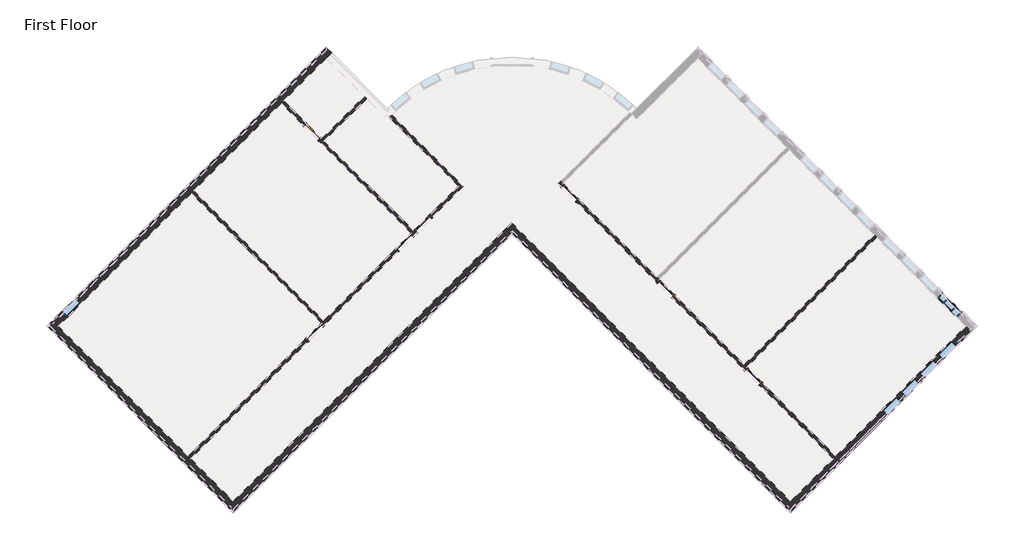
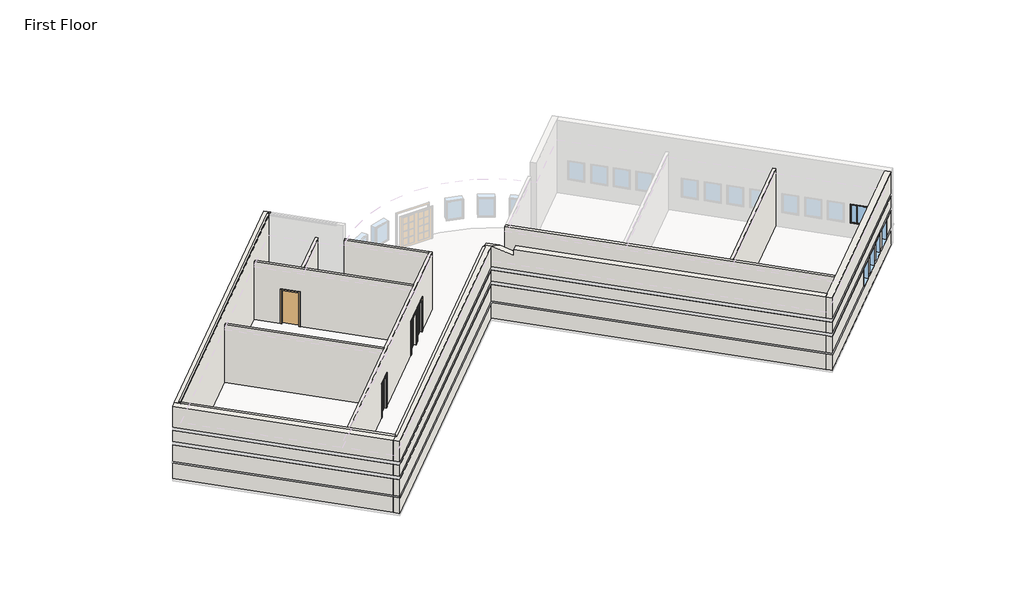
# One storey, part 1 of 3: 12 walls, 7 doors, 7 windows.
"""IFC4 building model written with IfcOpenShell, lengths in millimetres."""

from ifc_helpers import new_model, si_unit, point, frame_2d, origin, origin_with_axes, place, context, project, spatial, polyline, circle_curve, trimmed, segment, composite_curve, outline, extrude, faceted_brep, transform, mapped, element, save
from components import door_f9494b7c, door_b81abb0e, door_5f5b55da, window_15c49d37, window_0e2fc6ce

model = new_model("IFC4")

# Units and contexts
model_context = context("Model", 3, world=origin())
ifc_project = project(units=[si_unit("LENGTHUNIT", "METRE", prefix="MILLI")], contexts=[model_context])

# Site, building, storey
site = spatial("IfcSite", under=ifc_project)
building = spatial("IfcBuilding", under=site)
storey = spatial("IfcBuildingStorey", under=building, Name="First Floor", Elevation=0.0)

# Doors
placement = place(None, origin())
door_shape = door_f9494b7c(model_context)
element("IfcDoor", 1, ObjectType="Single-Flush : 36\" x 84\"", at=placement, inside=storey, context=model_context, shape_type="MappedRepresentation", body=[
    mapped(door_shape, transform((-12710.6349126, 7029.9464017, 0.0), x_axis=(0.7071067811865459, -0.7071067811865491, 0.0), y_axis=(0.7071067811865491, 0.7071067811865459, 0.0), z_axis=(0.0, 0.0, 1.0))),
])
door_2_shape = door_b81abb0e(model_context)
element("IfcDoor", 2, ObjectType="Single-Glass 1 : 36\" x 84\"", at=placement, inside=storey, context=model_context, shape_type="MappedRepresentation", body=[
    mapped(door_2_shape, transform((-12602.8718391, -2278.0890678, 0.0), x_axis=(0.707106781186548, 0.707106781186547, 0.0), y_axis=(-0.707106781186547, 0.707106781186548, 0.0), z_axis=(0.0, 0.0, 1.0))),
])
element("IfcDoor", 3, ObjectType="Single-Glass 1 : 36\" x 84\"", at=placement, inside=storey, context=model_context, shape_type="MappedRepresentation", body=[
    mapped(door_2_shape, transform((-8433.7879349, 1890.9948364, 0.0), x_axis=(0.707106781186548, 0.707106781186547, 0.0), y_axis=(-0.707106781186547, 0.707106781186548, 0.0), z_axis=(0.0, 0.0, 1.0))),
])
door_3_shape = door_5f5b55da(model_context)
element("IfcDoor", 4, ObjectType="Single-Glass 1 : 36\" x 84\"", at=placement, inside=storey, context=model_context, shape_type="MappedRepresentation", body=[
    mapped(door_3_shape, transform((-7571.6833473, 2753.0994241, 0.0), x_axis=(-0.707106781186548, -0.707106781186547, 0.0), y_axis=(0.707106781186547, -0.707106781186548, 0.0), z_axis=(0.0, 0.0, 1.0))),
])
element("IfcDoor", 5, ObjectType="Single-Glass 1 : 36\" x 84\"", at=placement, inside=storey, context=model_context, shape_type="MappedRepresentation", body=[
    mapped(door_3_shape, transform((-756.7914834, 4195.5530635, 0.0), x_axis=(-0.7071067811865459, 0.7071067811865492, 0.0), y_axis=(-0.7071067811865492, -0.7071067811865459, 0.0), z_axis=(0.0, 0.0, 1.0))),
])
element("IfcDoor", 6, ObjectType="Single-Glass 1 : 36\" x 84\"", at=placement, inside=storey, context=model_context, shape_type="MappedRepresentation", body=[
    mapped(door_3_shape, transform((3703.0282127, -264.2666326, 0.0), x_axis=(-0.7071067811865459, 0.7071067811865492, 0.0), y_axis=(-0.7071067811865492, -0.7071067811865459, 0.0), z_axis=(0.0, 0.0, 1.0))),
])
element("IfcDoor", 7, ObjectType="Single-Glass 1 : 36\" x 84\"", at=placement, inside=storey, context=model_context, shape_type="MappedRepresentation", body=[
    mapped(door_3_shape, transform((7764.3490435, -4325.5874634, 0.0), x_axis=(-0.7071067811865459, 0.7071067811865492, 0.0), y_axis=(-0.7071067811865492, -0.7071067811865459, 0.0), z_axis=(0.0, 0.0, 1.0))),
])

# Walls
element("IfcWall", 8, ObjectType="Exterior - Split Face and CMU on Mtl. Stud", at=placement, inside=storey, context=model_context, shape_type="Brep", body=[
    faceted_brep([(17611.1998802, -1988.4758079, 0.0), (11574.2227029, -8025.4529853, 0.0), (11464.2145654, -8135.4611227, 0.0), (9488.5582187, -10111.1174694, 0.0), (9239.3561114, -10360.3195767, 0.0), (9239.3561114, -10360.3195767, 1016.0), (9304.4629682, -10295.2127199, 1016.0), (9304.4629682, -10295.2127199, 1085.85), (9239.3561114, -10360.3195767, 1085.85), (9239.3561114, -10360.3195767, 2133.6), (9304.4629682, -10295.2127199, 2133.6), (9304.4629682, -10295.2127199, 2336.8), (9239.3561114, -10360.3195767, 2336.8), (9239.3561114, -10360.3195767, 3048.0), (9304.4629682, -10295.2127199, 3048.0), (9304.4629682, -10295.2127199, 3251.2), (9239.3561114, -10360.3195767, 3251.2), (9239.3561114, -10360.3195767, 4572.0), (9488.5582187, -10111.1174694, 4572.0), (17611.1998802, -1988.4758079, 4572.0), (16301.2050186, -3298.4706695, 2133.6), (16301.2050186, -3298.4706695, 914.4), (16947.7834593, -2651.8922288, 914.4), (16947.7834593, -2651.8922288, 2133.6), (15439.100431, -4160.5752571, 2133.6), (15439.100431, -4160.5752571, 914.4), (16085.6788717, -3513.9968164, 914.4), (16085.6788717, -3513.9968164, 2133.6), (14576.9958433, -5022.6798448, 2133.6), (14576.9958433, -5022.6798448, 914.4), (15223.574284, -4376.1014041, 914.4), (15223.574284, -4376.1014041, 2133.6), (13714.8912557, -5884.7844324, 2133.6), (13714.8912557, -5884.7844324, 914.4), (14361.4696964, -5238.2059917, 914.4), (14361.4696964, -5238.2059917, 2133.6), (17860.4019876, -2237.6779152, 4572.0), (9488.5582187, -10609.5216841, 4572.0), (9488.5582187, -10609.5216841, 3251.2), (17860.4019876, -2237.6779152, 3251.2), (9488.5582187, -10609.5216841, 0.0), (17860.4019876, -2237.6779152, 0.0), (17860.4019876, -2237.6779152, 1016.0), (17196.9855667, -2901.0943362, 1016.0), (17196.9855667, -2901.0943362, 914.4), (16550.4071259, -3547.6727769, 914.4), (16550.4071259, -3547.6727769, 1016.0), (16334.880979, -3763.1989238, 1016.0), (16334.880979, -3763.1989238, 914.4), (15688.3025383, -4409.7773645, 914.4), (15688.3025383, -4409.7773645, 1016.0), (15472.7763914, -4625.3035114, 1016.0), (15472.7763914, -4625.3035114, 914.4), (14826.1979507, -5271.8819521, 914.4), (14826.1979507, -5271.8819521, 1016.0), (14610.6718038, -5487.408099, 1016.0), (14610.6718038, -5487.408099, 914.4), (13964.0933631, -6133.9865398, 914.4), (13964.0933631, -6133.9865398, 1016.0), (9488.5582187, -10609.5216841, 1016.0), (9488.5582187, -10609.5216841, 1085.85), (13964.0933631, -6133.9865398, 1085.85), (13964.0933631, -6133.9865398, 2133.6), (9488.5582187, -10609.5216841, 2133.6), (17196.9855667, -2901.0943362, 1085.85), (17860.4019876, -2237.6779152, 1085.85), (17860.4019876, -2237.6779152, 2133.6), (17196.9855667, -2901.0943362, 2133.6), (9488.5582187, -10609.5216841, 2336.8), (17860.4019876, -2237.6779152, 2336.8), (17860.4019876, -2237.6779152, 3048.0), (9488.5582187, -10609.5216841, 3048.0), (16550.4071259, -3547.6727769, 1085.85), (16550.4071259, -3547.6727769, 2133.6), (16334.880979, -3763.1989238, 2133.6), (16334.880979, -3763.1989238, 1085.85), (15688.3025383, -4409.7773645, 1085.85), (15688.3025383, -4409.7773645, 2133.6), (15472.7763914, -4625.3035114, 2133.6), (15472.7763914, -4625.3035114, 1085.85), (14826.1979507, -5271.8819521, 1085.85), (14826.1979507, -5271.8819521, 2133.6), (14610.6718038, -5487.408099, 2133.6), (14610.6718038, -5487.408099, 1085.85), (17795.2951307, -2172.5710583, 0.0), (9423.4513619, -10544.4148272, 0.0), (9488.5582187, -10479.3079703, 1085.85), (13898.9865062, -6068.8796829, 1085.85), (13898.9865062, -6068.8796829, 1016.0), (9488.5582187, -10479.3079703, 1016.0), (17795.2951307, -2172.5710583, 2336.8), (9488.5582187, -10479.3079703, 2336.8), (9488.5582187, -10479.3079703, 2133.6), (13898.9865062, -6068.8796829, 2133.6), (14545.5649469, -5422.3012422, 2133.6), (14761.0910938, -5206.7750953, 2133.6), (15407.6695345, -4560.1966545, 2133.6), (15623.1956814, -4344.6705076, 2133.6), (16269.7741222, -3698.0920669, 2133.6), (16485.3002691, -3482.56592, 2133.6), (17131.8787098, -2835.9874793, 2133.6), (17795.2951307, -2172.5710583, 2133.6), (9488.5582187, -10479.3079703, 3251.2), (9488.5582187, -10479.3079703, 3048.0), (17795.2951307, -2172.5710583, 3048.0), (17795.2951307, -2172.5710583, 3251.2), (17795.2951307, -2172.5710583, 1085.85), (17795.2951307, -2172.5710583, 1016.0), (17131.8787098, -2835.9874793, 1085.85), (17131.8787098, -2835.9874793, 1016.0), (16485.3002691, -3482.56592, 1085.85), (16485.3002691, -3482.56592, 1016.0), (15623.1956814, -4344.6705076, 1085.85), (15623.1956814, -4344.6705076, 1016.0), (16269.7741222, -3698.0920669, 1016.0), (16269.7741222, -3698.0920669, 1085.85), (14761.0910938, -5206.7750953, 1085.85), (14761.0910938, -5206.7750953, 1016.0), (15407.6695345, -4560.1966545, 1016.0), (15407.6695345, -4560.1966545, 1085.85), (14545.5649469, -5422.3012422, 1016.0), (14545.5649469, -5422.3012422, 1085.85)], [[[0, 1, 2, 3, 4, 5, 6, 7, 8, 9, 10, 11, 12, 13, 14, 15, 16, 17, 18, 19], [20, 21, 22, 23], [24, 25, 26, 27], [28, 29, 30, 31], [32, 33, 34, 35]], [[36, 37, 38, 39]], [[40, 41, 42, 43, 44, 45, 46, 47, 48, 49, 50, 51, 52, 53, 54, 55, 56, 57, 58, 59]], [[60, 61, 62, 63]], [[64, 65, 66, 67]], [[68, 69, 70, 71]], [[72, 73, 74, 75]], [[76, 77, 78, 79]], [[80, 81, 82, 83]], [[19, 18, 17, 37, 36]], [[4, 3, 2, 1, 0, 84, 85]], [[86, 87, 61, 60, 8, 7]], [[88, 89, 6, 5, 59, 58]], [[87, 86, 89, 88]], [[90, 91, 92, 93, 94, 95, 96, 97, 98, 99, 100, 101]], [[102, 103, 104, 105]], [[0, 19, 36, 39, 105, 104, 70, 69, 90, 101, 66, 65, 106, 107, 42, 41, 84]], [[41, 40, 85, 84]], [[65, 64, 108, 106]], [[43, 42, 107, 109]], [[66, 101, 100, 67]], [[63, 62, 93, 92, 10, 9]], [[99, 98, 74, 73]], [[97, 96, 78, 77]], [[95, 94, 82, 81]], [[91, 90, 69, 68, 12, 11]], [[104, 103, 14, 13, 71, 70]], [[15, 102, 105, 39, 38, 16]], [[37, 17, 16, 38]], [[4, 85, 40, 59, 5]], [[12, 68, 71, 13]], [[9, 8, 60, 63]], [[92, 91, 11, 10]], [[103, 102, 15, 14]], [[21, 20, 99, 73, 72, 110, 111, 46, 45]], [[22, 21, 45, 44]], [[23, 22, 44, 43, 109, 108, 64, 67, 100]], [[20, 23, 100, 99]], [[25, 24, 97, 77, 76, 112, 113, 50, 49]], [[26, 25, 49, 48]], [[27, 26, 48, 47, 114, 115, 75, 74, 98]], [[24, 27, 98, 97]], [[29, 28, 95, 81, 80, 116, 117, 54, 53]], [[30, 29, 53, 52]], [[31, 30, 52, 51, 118, 119, 79, 78, 96]], [[28, 31, 96, 95]], [[33, 32, 93, 62, 61, 87, 88, 58, 57]], [[34, 33, 57, 56]], [[35, 34, 56, 55, 120, 121, 83, 82, 94]], [[32, 35, 94, 93]], [[106, 108, 109, 107]], [[115, 110, 72, 75]], [[111, 114, 47, 46]], [[110, 115, 114, 111]], [[119, 112, 76, 79]], [[113, 118, 51, 50]], [[112, 119, 118, 113]], [[121, 116, 80, 83]], [[117, 120, 55, 54]], [[116, 121, 120, 117]], [[89, 86, 7, 6]]]),
])
element("IfcWall", 9, ObjectType="Exterior - Split Face and CMU on Mtl. Stud", at=placement, inside=storey, context=model_context, shape_type="Brep", body=[
    faceted_brep([(9488.5582187, -10111.1174694, 0.0), (-3443.0105956, 2820.451345, 0.0), (-3443.0105956, 2820.451345, 4454.525), (-2944.6063809, 2322.0471303, 4454.525), (-2331.7039006, 1709.14465, 4165.6), (-2331.7039006, 1709.14465, 4572.0), (9488.5582187, -10111.1174694, 4572.0), (-3692.212703, 2571.2492376, 0.0), (-3443.0105956, 2322.0471303, 0.0), (9239.3561114, -10360.3195767, 0.0), (9239.3561114, -10360.3195767, 1016.0), (-3443.0105956, 2322.0471303, 1016.0), (-3508.1174525, 2387.1539871, 1016.0), (-3508.1174525, 2387.1539871, 1085.85), (-3443.0105956, 2322.0471303, 1085.85), (9239.3561114, -10360.3195767, 1085.85), (9239.3561114, -10360.3195767, 2133.6), (-3443.0105956, 2322.0471303, 2133.6), (-3508.1174525, 2387.1539871, 2133.6), (-3508.1174525, 2387.1539871, 2336.8), (-3443.0105956, 2322.0471303, 2336.8), (9239.3561114, -10360.3195767, 2336.8), (9239.3561114, -10360.3195767, 3048.0), (-3443.0105956, 2322.0471303, 3048.0), (-3508.1174525, 2387.1539871, 3048.0), (-3508.1174525, 2387.1539871, 3251.2), (-3443.0105956, 2322.0471303, 3251.2), (9239.3561114, -10360.3195767, 3251.2), (9239.3561114, -10360.3195767, 4572.0), (-2580.906008, 1459.9425426, 4572.0), (-2580.906008, 1459.9425426, 4165.6), (-3443.0105956, 2322.0471303, 4572.0), (-3692.212703, 2571.2492376, 4572.0), (9304.4629682, -10295.2127199, 0.0), (-3627.1058461, 2636.3560945, 0.0), (-3443.0105956, 2452.260844, 1016.0), (9304.4629682, -10295.2127199, 1016.0), (9304.4629682, -10295.2127199, 1085.85), (-3443.0105956, 2452.260844, 1085.85), (-3443.0105956, 2452.260844, 2133.6), (9304.4629682, -10295.2127199, 2133.6), (9304.4629682, -10295.2127199, 2336.8), (-3443.0105956, 2452.260844, 2336.8), (-3443.0105956, 2452.260844, 3251.2), (-3443.0105956, 2452.260844, 3048.0), (9304.4629682, -10295.2127199, 3048.0), (9304.4629682, -10295.2127199, 3251.2)], [[[0, 1, 2, 3, 4, 5, 6]], [[7, 8, 9, 10, 11, 12, 13, 14, 15, 16, 17, 18, 19, 20, 21, 22, 23, 24, 25, 26, 27, 28, 29, 30, 31, 32]], [[1, 0, 33, 34]], [[35, 36, 37, 38]], [[39, 40, 41, 42]], [[43, 44, 45, 46]], [[0, 6, 28, 27, 46, 45, 22, 21, 41, 40, 16, 15, 37, 36, 10, 9, 33]], [[9, 8, 7, 34, 33]], [[38, 37, 15, 14, 13]], [[36, 35, 12, 11, 10]], [[40, 39, 18, 17, 16]], [[42, 41, 21, 20, 19]], [[45, 44, 24, 23, 22]], [[25, 43, 46, 27, 26]], [[2, 1, 34, 7, 32]], [[35, 38, 13, 12]], [[39, 42, 19, 18]], [[44, 43, 25, 24]], [[28, 6, 5, 29]], [[29, 5, 4, 30]], [[30, 4, 3, 31]], [[2, 32, 31, 3]]]),
])
element("IfcWall", 10, ObjectType="Exterior - Split Face and CMU on Mtl. Stud", at=placement, inside=storey, context=model_context, shape_type="Brep", body=[
    faceted_brep([(-3692.212703, 2571.2492376, 0.0), (-16374.5794099, -10111.1174694, 0.0), (-16623.7815173, -10360.3195767, 0.0), (-16623.7815173, -10360.3195767, 1016.0), (-16558.6746604, -10295.2127199, 1016.0), (-16558.6746604, -10295.2127199, 1085.85), (-16623.7815173, -10360.3195767, 1085.85), (-16623.7815173, -10360.3195767, 2133.6), (-16558.6746604, -10295.2127199, 2133.6), (-16558.6746604, -10295.2127199, 2336.8), (-16623.7815173, -10360.3195767, 2336.8), (-16623.7815173, -10360.3195767, 3048.0), (-16558.6746604, -10295.2127199, 3048.0), (-16558.6746604, -10295.2127199, 3251.2), (-16623.7815173, -10360.3195767, 3251.2), (-16623.7815173, -10360.3195767, 4572.0), (-16374.5794099, -10111.1174694, 4572.0), (-3710.1732152, 2553.2887254, 4572.0), (-3692.212703, 2571.2492376, 4572.0), (-16374.5794099, -10609.5216841, 0.0), (-3443.0105956, 2322.0471303, 0.0), (-3443.0105956, 2322.0471303, 1016.0), (-16374.5794099, -10609.5216841, 1016.0), (-16374.5794099, -10609.5216841, 1085.85), (-3443.0105956, 2322.0471303, 1085.85), (-3443.0105956, 2322.0471303, 2133.6), (-16374.5794099, -10609.5216841, 2133.6), (-3443.0105956, 2322.0471303, 3251.2), (-3443.0105956, 2322.0471303, 4572.0), (-3460.9711079, 2304.086618, 4572.0), (-16374.5794099, -10609.5216841, 4572.0), (-16374.5794099, -10609.5216841, 3251.2), (-16374.5794099, -10609.5216841, 2336.8), (-3443.0105956, 2322.0471303, 2336.8), (-3443.0105956, 2322.0471303, 3048.0), (-16374.5794099, -10609.5216841, 3048.0), (-3508.1174525, 2387.1539871, 0.0), (-16439.6862668, -10544.4148272, 0.0), (-16374.5794099, -10479.3079703, 1016.0), (-3508.1174525, 2387.1539871, 1016.0), (-3508.1174525, 2387.1539871, 1085.85), (-16374.5794099, -10479.3079703, 1085.85), (-16374.5794099, -10479.3079703, 2133.6), (-3508.1174525, 2387.1539871, 2133.6), (-3508.1174525, 2387.1539871, 2336.8), (-16374.5794099, -10479.3079703, 2336.8), (-16374.5794099, -10479.3079703, 3048.0), (-3508.1174525, 2387.1539871, 3048.0), (-3508.1174525, 2387.1539871, 3251.2), (-16374.5794099, -10479.3079703, 3251.2)], [[[0, 1, 2, 3, 4, 5, 6, 7, 8, 9, 10, 11, 12, 13, 14, 15, 16, 17, 18]], [[19, 20, 21, 22]], [[23, 24, 25, 26]], [[27, 28, 29, 30, 31]], [[32, 33, 34, 35]], [[2, 1, 0, 36, 37]], [[38, 39, 40, 41]], [[42, 43, 44, 45]], [[46, 47, 48, 49]], [[28, 18, 17, 16, 15, 30, 29]], [[0, 18, 28, 27, 48, 47, 34, 33, 44, 43, 25, 24, 40, 39, 21, 20, 36]], [[20, 19, 37, 36]], [[41, 40, 24, 23, 6, 5]], [[39, 38, 4, 3, 22, 21]], [[43, 42, 8, 7, 26, 25]], [[45, 44, 33, 32, 10, 9]], [[47, 46, 12, 11, 35, 34]], [[49, 48, 27, 31, 14, 13]], [[2, 37, 19, 22, 3]], [[6, 23, 26, 7]], [[10, 32, 35, 11]], [[15, 14, 31, 30]], [[38, 41, 5, 4]], [[42, 45, 9, 8]], [[46, 49, 13, 12]]]),
    faceted_brep([(-16374.5794099, -10111.1174694, 4689.475), (-3941.4148103, 2322.0471303, 4689.475), (-3835.1824623, 2428.2794782, 4639.3965909), (-16374.5794099, -10111.1174694, 4639.3965909), (-16449.9701085, -10186.5081679, 4653.9354839), (-3790.6334132, 2322.0471303, 4653.9354839), (-16374.5794099, -10261.8988665, 4653.9354839)], [[[0, 1, 2, 3, 4]], [[2, 1, 5]], [[1, 0, 6, 5]], [[0, 4, 6]], [[6, 3, 2, 5]], [[3, 6, 4]]]),
])
element("IfcWall", 11, ObjectType="Exterior - Split Face and CMU on Mtl. Stud", at=placement, inside=storey, context=model_context, shape_type="Brep", body=[
    faceted_brep([(-24746.4231788, -1739.2737005, 0.0), (-24746.4231788, -1739.2737005, 1016.0), (-24681.3163219, -1804.3805574, 1016.0), (-24681.3163219, -1804.3805574, 1085.85), (-24746.4231788, -1739.2737005, 1085.85), (-24746.4231788, -1739.2737005, 2133.6), (-24681.3163219, -1804.3805574, 2133.6), (-24681.3163219, -1804.3805574, 2336.8), (-24746.4231788, -1739.2737005, 2336.8), (-24746.4231788, -1739.2737005, 3048.0), (-24681.3163219, -1804.3805574, 3048.0), (-24681.3163219, -1804.3805574, 3251.2), (-24746.4231788, -1739.2737005, 3251.2), (-24746.4231788, -1739.2737005, 4572.0), (-24497.2210715, -1988.4758079, 4572.0), (-16374.5794099, -10111.1174694, 4572.0), (-16374.5794099, -10111.1174694, 0.0), (-18350.2357566, -8135.4611227, 0.0), (-18460.2438941, -8025.4529853, 0.0), (-24497.2210715, -1988.4758079, 0.0), (-24995.6252862, -1988.4758079, 1085.85), (-16623.7815173, -10360.3195767, 1085.85), (-16623.7815173, -10360.3195767, 2133.6), (-24995.6252862, -1988.4758079, 2133.6), (-16623.7815173, -10360.3195767, 3251.2), (-16623.7815173, -10360.3195767, 4572.0), (-24995.6252862, -1988.4758079, 4572.0), (-24995.6252862, -1988.4758079, 3251.2), (-16623.7815173, -10360.3195767, 0.0), (-16623.7815173, -10360.3195767, 1016.0), (-24995.6252862, -1988.4758079, 1016.0), (-24995.6252862, -1988.4758079, 0.0), (-24995.6252862, -1988.4758079, 2336.8), (-16623.7815173, -10360.3195767, 2336.8), (-16623.7815173, -10360.3195767, 3048.0), (-24995.6252862, -1988.4758079, 3048.0), (-24865.4115724, -1988.4758079, 1016.0), (-16558.6746604, -10295.2127199, 1016.0), (-16558.6746604, -10295.2127199, 1085.85), (-24865.4115724, -1988.4758079, 1085.85), (-24865.4115724, -1988.4758079, 2133.6), (-16558.6746604, -10295.2127199, 2133.6), (-16558.6746604, -10295.2127199, 2336.8), (-24865.4115724, -1988.4758079, 2336.8), (-24865.4115724, -1988.4758079, 3048.0), (-16558.6746604, -10295.2127199, 3048.0), (-16558.6746604, -10295.2127199, 3251.2), (-24865.4115724, -1988.4758079, 3251.2)], [[[0, 1, 2, 3, 4, 5, 6, 7, 8, 9, 10, 11, 12, 13, 14, 15, 16, 17, 18, 19]], [[20, 21, 22, 23]], [[24, 25, 26, 27]], [[28, 29, 30, 31]], [[32, 33, 34, 35]], [[36, 37, 38, 39]], [[40, 41, 42, 43]], [[44, 45, 46, 47]], [[29, 28, 16, 15, 25, 24, 46, 45, 34, 33, 42, 41, 22, 21, 38, 37]], [[39, 38, 21, 20, 4, 3]], [[37, 36, 2, 1, 30, 29]], [[41, 40, 6, 5, 23, 22]], [[43, 42, 33, 32, 8, 7]], [[45, 44, 10, 9, 35, 34]], [[47, 46, 24, 27, 12, 11]], [[15, 14, 13, 26, 25]], [[4, 20, 23, 5]], [[8, 32, 35, 9]], [[13, 12, 27, 26]], [[1, 0, 31, 30]], [[36, 39, 3, 2]], [[40, 43, 7, 6]], [[44, 47, 11, 10]], [[0, 19, 18, 17, 16, 28, 31]]]),
    faceted_brep([(-24497.2210715, -1988.4758079, 4689.475), (-16374.5794099, -10111.1174694, 4689.475), (-16374.5794099, -10111.1174694, 4639.3965909), (-24497.2210715, -1988.4758079, 4639.3965909), (-24572.61177, -1913.0851093, 4653.9354839), (-16449.9701085, -10186.5081679, 4653.9354839), (-24648.0024686, -1988.4758079, 4653.9354839)], [[[0, 1, 2, 3, 4]], [[2, 1, 5]], [[1, 0, 6, 5]], [[0, 4, 6]], [[6, 3, 2, 5]], [[3, 6, 4]]]),
])
element("IfcWall", 12, ObjectType="Exterior - Split Face and CMU on Mtl. Stud", at=placement, inside=storey, context=model_context, shape_type="Brep", body=[
    faceted_brep([(-11814.8543645, 10693.8908991, 0.0), (-11814.8543645, 10693.8908991, 1016.0), (-11879.9612214, 10628.7840422, 1016.0), (-11879.9612214, 10628.7840422, 1085.85), (-11814.8543645, 10693.8908991, 1085.85), (-11814.8543645, 10693.8908991, 2133.6), (-11879.9612214, 10628.7840422, 2133.6), (-11879.9612214, 10628.7840422, 2336.8), (-11814.8543645, 10693.8908991, 2336.8), (-11814.8543645, 10693.8908991, 3048.0), (-11879.9612214, 10628.7840422, 3048.0), (-11879.9612214, 10628.7840422, 3251.2), (-11814.8543645, 10693.8908991, 3251.2), (-11814.8543645, 10693.8908991, 4572.0), (-12064.0564718, 10444.6887918, 4572.0), (-24497.2210715, -1988.4758079, 4572.0), (-24497.2210715, -1988.4758079, 0.0), (-18318.8048602, 4189.9404034, 0.0), (-18208.7967227, 4299.9485409, 0.0), (-14149.720956, 8359.0243076, 0.0), (-14039.7128185, 8469.0324451, 0.0), (-12064.0564718, 10444.6887918, 0.0), (-24083.0067579, -1574.2614943, 914.4), (-24083.0067579, -1574.2614943, 2133.6), (-23436.4283172, -927.6830536, 2133.6), (-23436.4283172, -927.6830536, 914.4), (-12064.0564718, 10943.0930065, 1085.85), (-23685.6304245, -678.4809462, 1085.85), (-23685.6304245, -678.4809462, 2133.6), (-12064.0564718, 10943.0930065, 2133.6), (-23685.6304245, -678.4809462, 1016.0), (-12064.0564718, 10943.0930065, 1016.0), (-12064.0564718, 10943.0930065, 0.0), (-24746.4231788, -1739.2737005, 0.0), (-24746.4231788, -1739.2737005, 1016.0), (-24332.2088652, -1325.0593869, 1016.0), (-24332.2088652, -1325.0593869, 914.4), (-23685.6304245, -678.4809462, 914.4), (-24332.2088652, -1325.0593869, 1085.85), (-24746.4231788, -1739.2737005, 1085.85), (-24746.4231788, -1739.2737005, 2133.6), (-24332.2088652, -1325.0593869, 2133.6), (-24746.4231788, -1739.2737005, 3251.2), (-24746.4231788, -1739.2737005, 4572.0), (-12064.0564718, 10943.0930065, 4572.0), (-12064.0564718, 10943.0930065, 3251.2), (-12064.0564718, 10943.0930065, 2336.8), (-24746.4231788, -1739.2737005, 2336.8), (-24746.4231788, -1739.2737005, 3048.0), (-12064.0564718, 10943.0930065, 3048.0), (-12064.0564718, 10812.8792927, 1085.85), (-23620.5235676, -743.5878031, 1085.85), (-23620.5235676, -743.5878031, 1016.0), (-12064.0564718, 10812.8792927, 1016.0), (-24681.3163219, -1804.3805574, 2336.8), (-12064.0564718, 10812.8792927, 2336.8), (-12064.0564718, 10812.8792927, 2133.6), (-23620.5235676, -743.5878031, 2133.6), (-24267.1020084, -1390.1662438, 2133.6), (-24681.3163219, -1804.3805574, 2133.6), (-12064.0564718, 10812.8792927, 3048.0), (-24681.3163219, -1804.3805574, 3048.0), (-24681.3163219, -1804.3805574, 3251.2), (-12064.0564718, 10812.8792927, 3251.2), (-24681.3163219, -1804.3805574, 1085.85), (-24681.3163219, -1804.3805574, 1016.0), (-24267.1020084, -1390.1662438, 1085.85), (-24267.1020084, -1390.1662438, 1016.0)], [[[0, 1, 2, 3, 4, 5, 6, 7, 8, 9, 10, 11, 12, 13, 14, 15, 16, 17, 18, 19, 20, 21], [22, 23, 24, 25]], [[26, 27, 28, 29]], [[30, 31, 32, 33, 34, 35, 36, 37]], [[38, 39, 40, 41]], [[42, 43, 44, 45]], [[46, 47, 48, 49]], [[50, 51, 27, 26, 4, 3]], [[52, 53, 2, 1, 31, 30]], [[51, 50, 53, 52]], [[54, 55, 56, 57, 58, 59]], [[60, 61, 62, 63]], [[34, 33, 16, 15, 43, 42, 62, 61, 48, 47, 54, 59, 40, 39, 64, 65]], [[39, 38, 66, 64]], [[35, 34, 65, 67]], [[40, 59, 58, 41]], [[29, 28, 57, 56, 6, 5]], [[55, 54, 47, 46, 8, 7]], [[61, 60, 10, 9, 49, 48]], [[63, 62, 42, 45, 12, 11]], [[15, 14, 13, 44, 43]], [[8, 46, 49, 9]], [[13, 12, 45, 44]], [[1, 0, 32, 31]], [[5, 4, 26, 29]], [[56, 55, 7, 6]], [[60, 63, 11, 10]], [[23, 22, 36, 35, 67, 66, 38, 41, 58]], [[37, 36, 22, 25]], [[25, 24, 57, 28, 27, 51, 52, 30, 37]], [[24, 23, 58, 57]], [[64, 66, 67, 65]], [[53, 50, 3, 2]], [[0, 21, 20, 19, 18, 17, 16, 33, 32]]]),
    faceted_brep([(-12064.0564718, 10444.6887918, 4689.475), (-24497.2210715, -1988.4758079, 4689.475), (-24497.2210715, -1988.4758079, 4639.3965909), (-12064.0564718, 10444.6887918, 4639.3965909), (-11988.6657733, 10520.0794903, 4653.9354839), (-24572.61177, -1913.0851093, 4653.9354839), (-12064.0564718, 10595.4701889, 4653.9354839)], [[[0, 1, 2, 3, 4]], [[2, 1, 5]], [[1, 0, 6, 5]], [[0, 4, 6]], [[6, 3, 2, 5]], [[3, 6, 4]]]),
])
element("IfcWall", 13, ObjectType="Interior - 6 1/8\" Partition (2-hr)", at=placement, inside=storey, context=model_context, shape_type="Brep", body=[
    faceted_brep([(-8055.4946458, 2159.2799881, 0.0), (-7839.9684989, 2374.806135, 0.0), (-7839.9684989, 2374.806135, 2133.6), (-7193.3900582, 3021.3845757, 2133.6), (-7193.3900582, 3021.3845757, 0.0), (-5703.7900741, 4510.9845598, 0.0), (-5703.7900741, 4510.9845598, 3657.6), (-18350.2357566, -8135.4611227, 3657.6), (-18350.2357566, -8135.4611227, 0.0), (-12871.1569907, -2656.3823569, 0.0), (-12871.1569907, -2656.3823569, 2133.6), (-12224.57855, -2009.8039162, 2133.6), (-12224.57855, -2009.8039162, 0.0), (-8702.0730865, 1512.7015473, 0.0), (-8702.0730865, 1512.7015473, 2133.6), (-8055.4946458, 2159.2799881, 2133.6), (-7949.9766364, 2484.8142724, 2133.6), (-7949.9766364, 2484.8142724, 0.0), (-8002.7356411, 2432.0552677, 0.0), (-8112.7437786, 2322.0471303, 0.0), (-8165.5027833, 2269.2881255, 0.0), (-8165.5027833, 2269.2881255, 2133.6), (-8812.081224, 1622.7096848, 2133.6), (-8812.081224, 1622.7096848, 0.0), (-12171.8195453, -1737.0286365, 0.0), (-12281.8276828, -1847.036774, 0.0), (-12334.5866875, -1899.7957787, 0.0), (-12334.5866875, -1899.7957787, 2133.6), (-12981.1651282, -2546.3742194, 2133.6), (-12981.1651282, -2546.3742194, 0.0), (-18460.2438941, -8025.4529853, 0.0), (-18460.2438941, -8025.4529853, 3657.6), (-12281.8276828, -1847.036774, 3657.6), (-12171.8195453, -1737.0286365, 3657.6), (-8112.7437786, 2322.0471303, 3657.6), (-8002.7356411, 2432.0552677, 3657.6), (-5923.8063491, 4510.9845598, 3657.6), (-5813.7982116, 4620.9926972, 3657.6), (-5813.7982116, 4620.9926972, 0.0), (-5923.8063491, 4510.9845598, 0.0), (-7303.3981957, 3131.3927132, 0.0), (-7303.3981957, 3131.3927132, 2133.6)], [[[0, 1, 2, 3, 4, 5, 6, 7, 8, 9, 10, 11, 12, 13, 14, 15]], [[16, 17, 18, 19, 20, 21, 22, 23, 24, 25, 26, 27, 28, 29, 30, 31, 32, 33, 34, 35, 36, 37, 38, 39, 40, 41]], [[9, 8, 30, 29]], [[13, 12, 26, 25, 24, 23]], [[40, 39, 38, 5, 4]], [[20, 19, 18, 17, 1, 0]], [[7, 6, 37, 36, 35, 34, 33, 32, 31]], [[8, 7, 31, 30]], [[6, 5, 38, 37]], [[27, 26, 12, 11]], [[28, 27, 11, 10]], [[29, 28, 10, 9]], [[21, 20, 0, 15]], [[22, 21, 15, 14]], [[23, 22, 14, 13]], [[2, 1, 17, 16]], [[3, 2, 16, 41]], [[4, 3, 41, 40]]]),
])
element("IfcWall", 14, ObjectType="Interior - 6 1/8\" Partition (2-hr)", at=placement, inside=storey, context=model_context, shape_type="SweptSolid", body=[
    extrude(outline(composite_curve([segment(polyline([(-9024.2284636, 7831.4229492), (-5813.7982116, 4620.9926972), (-5923.8063491, 4510.9845598), (-9132.9284077, 7720.1066184)]), True, "CONTINUOUS"), segment(trimmed(circle_curve(frame_2d((-3443.0105956, 2272.6557216)), 7877.175), [point((-9132.9284077, 7720.1066184))], [point((-9024.2284636, 7831.4229492))], False, "CARTESIAN"), True, "CONTINUOUS")], self_intersect=False)), origin_with_axes(), (0.0, 0.0, 1.0), 3657.6),
])
element("IfcWall", 15, ObjectType="Interior - 6 1/8\" Partition (2-hr)", at=placement, inside=storey, context=model_context, shape_type="Brep", body=[
    faceted_brep([(-8002.7356411, 2432.0552677, 0.0), (-12169.5744813, 6598.8941079, 0.0), (-12279.5826187, 6708.9022454, 0.0), (-12332.3416235, 6761.6612501, 0.0), (-12332.3416235, 6761.6612501, 2133.6), (-12978.9200642, 7408.2396908, 2133.6), (-12978.9200642, 7408.2396908, 0.0), (-14039.7128185, 8469.0324451, 0.0), (-14039.7128185, 8469.0324451, 3657.6), (-12279.5826187, 6708.9022454, 3657.6), (-12169.5744813, 6598.8941079, 3657.6), (-8002.7356411, 2432.0552677, 3657.6), (-12442.3497609, 6651.6531126, 2133.6), (-12442.3497609, 6651.6531126, 0.0), (-8112.7437786, 2322.0471303, 0.0), (-8112.7437786, 2322.0471303, 3657.6), (-14149.720956, 8359.0243076, 3657.6), (-14149.720956, 8359.0243076, 0.0), (-13088.9282017, 7298.2315533, 0.0), (-13088.9282017, 7298.2315533, 2133.6)], [[[0, 1, 2, 3, 4, 5, 6, 7, 8, 9, 10, 11]], [[12, 13, 14, 15, 16, 17, 18, 19]], [[18, 17, 7, 6]], [[14, 13, 3, 2, 1, 0]], [[11, 10, 9, 8, 16, 15]], [[8, 7, 17, 16]], [[0, 11, 15, 14]], [[4, 3, 13, 12]], [[5, 4, 12, 19]], [[6, 5, 19, 18]]]),
])
element("IfcWall", 16, ObjectType="Interior - 6 1/8\" Partition (2-hr)", at=placement, inside=storey, context=model_context, shape_type="SweptSolid", body=[
    extrude(outline(polyline([(-10193.9181346, 8574.5504545), (-12169.5744813, 6598.8941079), (-12279.5826187, 6708.9022454), (-10303.9262721, 8684.558592), (-10193.9181346, 8574.5504545)])), origin_with_axes(), (0.0, 0.0, 1.0), 3657.6),
])
element("IfcWall", 17, ObjectType="Interior - 6 1/8\" Partition (2-hr)", at=placement, inside=storey, context=model_context, shape_type="SweptSolid", body=[
    extrude(outline(polyline([(-18208.7967227, 4299.9485409), (-12171.8195453, -1737.0286365), (-12281.8276828, -1847.036774), (-18318.8048602, 4189.9404034), (-18208.7967227, 4299.9485409)])), origin_with_axes(), (0.0, 0.0, 1.0), 3657.6),
])
element("IfcWall", 18, ObjectType="Interior - 6 1/8\" Partition (2-hr)", at=placement, inside=storey, context=model_context, shape_type="Brep", body=[
    faceted_brep([(7496.0638919, -3947.2941743, 2133.6), (7496.0638919, -3947.2941743, 0.0), (7443.3048872, -3894.5351696, 0.0), (7333.2967497, -3784.5270321, 0.0), (4081.3215018, -532.5517842, 0.0), (4081.3215018, -532.5517842, 2133.6), (3434.7430611, 114.0266565, 2133.6), (3434.7430611, 114.0266565, 0.0), (3381.9840564, 166.7856612, 0.0), (3271.9759189, 276.7937987, 0.0), (-378.4981943, 3927.2679119, 0.0), (-378.4981943, 3927.2679119, 2133.6), (-1025.076635, 4573.8463526, 2133.6), (-1025.076635, 4573.8463526, 0.0), (-1077.8356397, 4626.6053573, 0.0), (-1187.8437772, 4736.6134948, 0.0), (-1187.8437772, 4736.6134948, 3657.6), (-1077.8356397, 4626.6053573, 3657.6), (3271.9759189, 276.7937987, 3657.6), (3381.9840564, 166.7856612, 3657.6), (7333.2967497, -3784.5270321, 3657.6), (7443.3048872, -3894.5351696, 3657.6), (11574.2227029, -8025.4529853, 3657.6), (11574.2227029, -8025.4529853, 0.0), (8142.6423326, -4593.872615, 0.0), (8142.6423326, -4593.872615, 2133.6), (3971.3133643, -642.5599217, 0.0), (7386.0557544, -4057.3023118, 0.0), (7386.0557544, -4057.3023118, 2133.6), (8032.6341951, -4703.8807525, 2133.6), (8032.6341951, -4703.8807525, 0.0), (11464.2145654, -8135.4611227, 0.0), (11464.2145654, -8135.4611227, 3657.6), (-1297.8519147, 4626.6053573, 3657.6), (-1297.8519147, 4626.6053573, 0.0), (-1135.0847725, 4463.8382151, 0.0), (-1135.0847725, 4463.8382151, 2133.6), (-488.5063318, 3817.2597744, 2133.6), (-488.5063318, 3817.2597744, 0.0), (3324.7349236, 4.018519, 0.0), (3324.7349236, 4.018519, 2133.6), (3971.3133643, -642.5599217, 2133.6)], [[[0, 1, 2, 3, 4, 5, 6, 7, 8, 9, 10, 11, 12, 13, 14, 15, 16, 17, 18, 19, 20, 21, 22, 23, 24, 25]], [[26, 27, 28, 29, 30, 31, 32, 33, 34, 35, 36, 37, 38, 39, 40, 41]], [[15, 14, 13, 35, 34]], [[10, 9, 8, 7, 39, 38]], [[24, 23, 31, 30]], [[4, 3, 2, 1, 27, 26]], [[22, 21, 20, 19, 18, 17, 16, 33, 32]], [[23, 22, 32, 31]], [[16, 15, 34, 33]], [[36, 35, 13, 12]], [[37, 36, 12, 11]], [[38, 37, 11, 10]], [[40, 39, 7, 6]], [[41, 40, 6, 5]], [[26, 41, 5, 4]], [[28, 27, 1, 0]], [[29, 28, 0, 25]], [[30, 29, 25, 24]]]),
])
element("IfcWall", 19, ObjectType="Interior - 6 1/8\" Partition (2-hr)", at=placement, inside=storey, context=model_context, shape_type="SweptSolid", body=[
    extrude(outline(polyline([(7333.2967497, -3784.5270321), (13370.2739271, 2252.4501453), (13480.2820645, 2142.4420078), (7443.3048872, -3894.5351696), (7333.2967497, -3784.5270321)])), origin_with_axes(), (0.0, 0.0, 1.0), 3657.6),
])

# Windows
window_shape = window_15c49d37(model_context)
element("IfcWindow", 20, ObjectType="Fixed : 36\" x 48\"", at=placement, inside=storey, context=model_context, shape_type="MappedRepresentation", body=[
    mapped(window_shape, transform((-23911.2593596, -1153.3119886, 0.0), x_axis=(-0.7071067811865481, -0.7071067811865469, 0.0), y_axis=(0.7071067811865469, -0.7071067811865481, 0.0), z_axis=(0.0, 0.0, 1.0))),
])
element("IfcWindow", 21, ObjectType="Fixed : 36\" x 48\"", at=placement, inside=storey, context=model_context, shape_type="MappedRepresentation", body=[
    mapped(window_shape, transform((16722.1545243, -850.2283445, 0.0), x_axis=(-0.7071067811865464, 0.7071067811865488, 0.0), y_axis=(-0.7071067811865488, -0.7071067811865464, 0.0), z_axis=(0.0, 0.0, 1.0))),
])
window_2_shape = window_0e2fc6ce(model_context)
element("IfcWindow", 22, ObjectType="Fixed : 36\" x 48\"", at=placement, inside=storey, context=model_context, shape_type="MappedRepresentation", body=[
    mapped(window_2_shape, transform((16971.3566316, -1099.4304519, 0.0), x_axis=(-0.7071067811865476, 0.7071067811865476, 0.0), y_axis=(-0.7071067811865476, -0.7071067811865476, 0.0), z_axis=(0.0, 0.0, 1.0))),
])
element("IfcWindow", 23, ObjectType="Fixed : 36\" x 48\"", at=placement, inside=storey, context=model_context, shape_type="MappedRepresentation", body=[
    mapped(window_2_shape, transform((14135.8407614, -5713.0370341, 0.0), x_axis=(-0.7071067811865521, -0.707106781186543, 0.0), y_axis=(0.707106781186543, -0.7071067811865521, 0.0), z_axis=(0.0, 0.0, 1.0))),
])
element("IfcWindow", 24, ObjectType="Fixed : 36\" x 48\"", at=placement, inside=storey, context=model_context, shape_type="MappedRepresentation", body=[
    mapped(window_2_shape, transform((14997.945349, -4850.9324465, 0.0), x_axis=(-0.7071067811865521, -0.707106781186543, 0.0), y_axis=(0.707106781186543, -0.7071067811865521, 0.0), z_axis=(0.0, 0.0, 1.0))),
])
element("IfcWindow", 25, ObjectType="Fixed : 36\" x 48\"", at=placement, inside=storey, context=model_context, shape_type="MappedRepresentation", body=[
    mapped(window_2_shape, transform((15860.0499366, -3988.8278588, 0.0), x_axis=(-0.7071067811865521, -0.707106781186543, 0.0), y_axis=(0.707106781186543, -0.7071067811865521, 0.0), z_axis=(0.0, 0.0, 1.0))),
])
element("IfcWindow", 26, ObjectType="Fixed : 36\" x 48\"", at=placement, inside=storey, context=model_context, shape_type="MappedRepresentation", body=[
    mapped(window_2_shape, transform((16722.1545243, -3126.7232712, 0.0), x_axis=(-0.7071067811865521, -0.707106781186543, 0.0), y_axis=(0.707106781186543, -0.7071067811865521, 0.0), z_axis=(0.0, 0.0, 1.0))),
])

save(model, "model.ifc")
